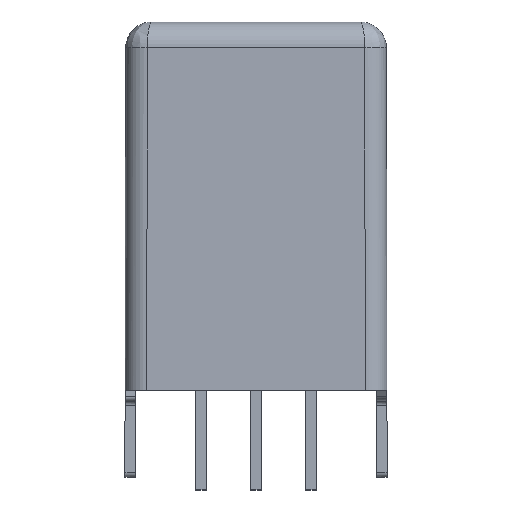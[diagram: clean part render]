
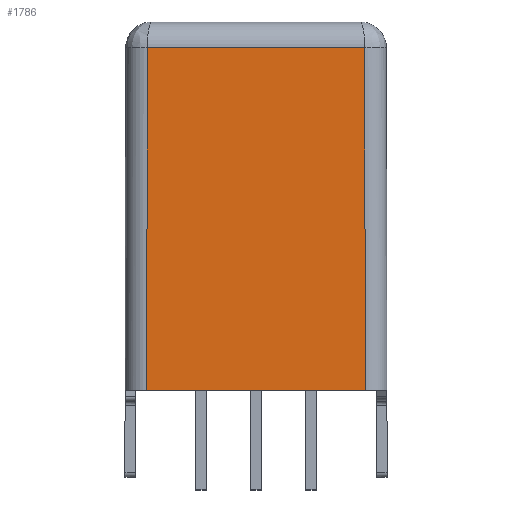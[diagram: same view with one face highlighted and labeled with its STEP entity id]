
A CAD part, top view. The second image highlights one B-rep face of the part: STEP entity #1786.
In plain terms, the highlighted planar face has unit normal (0, 0.002, 1).
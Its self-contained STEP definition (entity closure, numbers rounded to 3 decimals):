
#70 = EDGE_CURVE ( 'NONE', #1807, #82, #1673, .T. ) ;
#82 = VERTEX_POINT ( 'NONE', #555 ) ;
#87 = CARTESIAN_POINT ( 'NONE',  ( 5.045, -17., 4.301 ) ) ;
#555 = CARTESIAN_POINT ( 'NONE',  ( -5.017, -1.198, 4.274 ) ) ;
#684 = DIRECTION ( 'NONE',  ( 0., -1., 0.002 ) ) ;
#690 = LINE ( 'NONE', #2246, #2838 ) ;
#722 = VECTOR ( 'NONE', #988, 1000. ) ;
#976 = AXIS2_PLACEMENT_3D ( 'NONE', #2836, #3094, #684 ) ;
#988 = DIRECTION ( 'NONE',  ( -0.002, 1., -0.002 ) ) ;
#1040 = CARTESIAN_POINT ( 'NONE',  ( 5.015, 0.019, 4.271 ) ) ;
#1159 = CARTESIAN_POINT ( 'NONE',  ( -5.015, -1.198, 4.274 ) ) ;
#1246 = LINE ( 'NONE', #1040, #722 ) ;
#1264 = EDGE_LOOP ( 'NONE', ( #2342, #2691, #1867, #2377 ) ) ;
#1276 = EDGE_CURVE ( 'NONE', #2917, #2302, #690, .T. ) ;
#1396 = VECTOR ( 'NONE', #1704, 1000. ) ;
#1459 = PLANE ( 'NONE',  #976 ) ;
#1584 = CARTESIAN_POINT ( 'NONE',  ( 5.017, -1.198, 4.274 ) ) ;
#1592 = CARTESIAN_POINT ( 'NONE',  ( -5.015, -0.002, 4.272 ) ) ;
#1673 = LINE ( 'NONE', #1159, #1396 ) ;
#1704 = DIRECTION ( 'NONE',  ( -1., 0., 0. ) ) ;
#1780 = LINE ( 'NONE', #1592, #2512 ) ;
#1786 = ADVANCED_FACE ( 'NONE', ( #3295 ), #1459, .T. ) ;
#1807 = VERTEX_POINT ( 'NONE', #1584 ) ;
#1855 = DIRECTION ( 'NONE',  ( -0.002, -1., 0.002 ) ) ;
#1867 = ORIENTED_EDGE ( 'NONE', *, *, #70, .T. ) ;
#2246 = CARTESIAN_POINT ( 'NONE',  ( -6.015, -17., 4.301 ) ) ;
#2302 = VERTEX_POINT ( 'NONE', #2808 ) ;
#2342 = ORIENTED_EDGE ( 'NONE', *, *, #1276, .F. ) ;
#2377 = ORIENTED_EDGE ( 'NONE', *, *, #2841, .T. ) ;
#2405 = EDGE_CURVE ( 'NONE', #2917, #1807, #1246, .T. ) ;
#2512 = VECTOR ( 'NONE', #1855, 1000. ) ;
#2691 = ORIENTED_EDGE ( 'NONE', *, *, #2405, .T. ) ;
#2808 = CARTESIAN_POINT ( 'NONE',  ( -5.045, -17., 4.301 ) ) ;
#2836 = CARTESIAN_POINT ( 'NONE',  ( -6.015, 0., 4.272 ) ) ;
#2838 = VECTOR ( 'NONE', #3299, 1000. ) ;
#2841 = EDGE_CURVE ( 'NONE', #82, #2302, #1780, .T. ) ;
#2917 = VERTEX_POINT ( 'NONE', #87 ) ;
#3094 = DIRECTION ( 'NONE',  ( 0., 0.002, 1. ) ) ;
#3295 = FACE_OUTER_BOUND ( 'NONE', #1264, .T. ) ;
#3299 = DIRECTION ( 'NONE',  ( -1., 0., 0. ) ) ;
